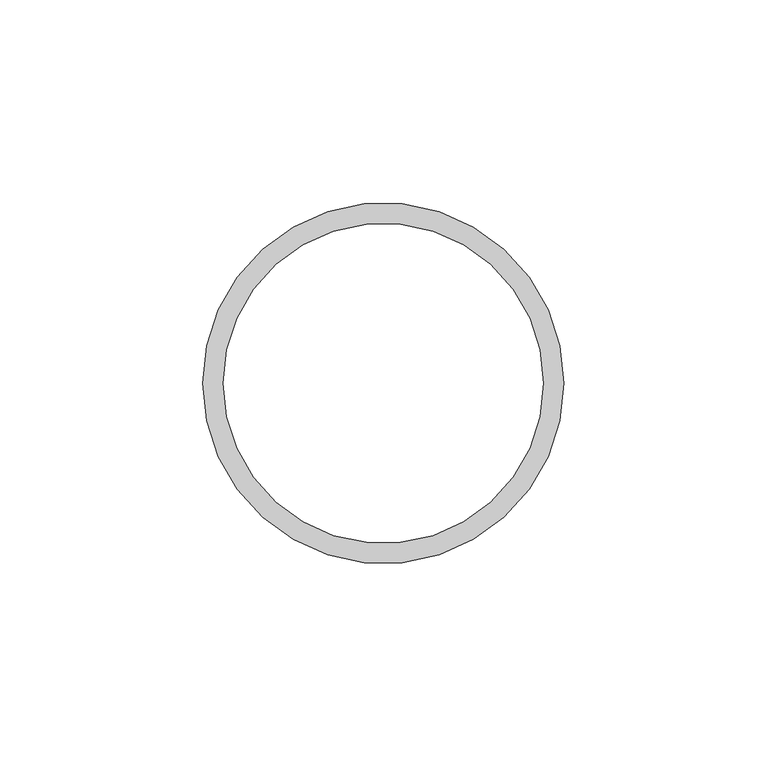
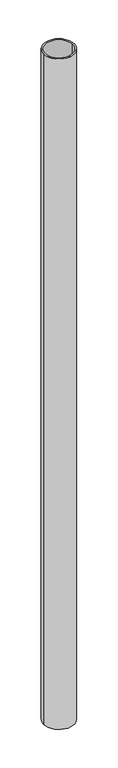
"""IFC4 building model written with IfcOpenShell, lengths in millimetres: column geometry, NLRS_28_SC_TLB_kolom buis_generiek_ISR : ø88.9x5 ."""

import ifcopenshell
import ifcopenshell.guid

model = None  # the IFC model being written
_history = None  # IfcOwnerHistory: only IFC2X3 demands one
_inside = {}  # id of a spatial element -> (the spatial element, [elements in it])
_under = {}  # id of a project, library or spatial element -> (it, [spatial elements below it])
_declared = {}  # id of a project -> (the project, [libraries it declares])
_typed = {}  # id of a type object -> (the type object, [elements of that type])
_made_of = {}  # id of a material, layer set ... -> (it, [elements and type objects made of it])


def new_model(schema):
    """Start an empty IFC model of exactly this schema.

    Asked for "IFC4X3", IfcOpenShell would pick the latest addendum, in which some entities
    have other attributes; the version numbers below select the first issue.
    IFC2X3 requires an IfcOwnerHistory on every rooted entity: one is made here for all.
    """
    global model, _history
    if schema == "IFC4X3":
        model = ifcopenshell.file(schema_version=(4, 3, 0, 0))
    else:
        model = ifcopenshell.file(schema=schema)
    _inside.clear()
    _under.clear()
    _declared.clear()
    _typed.clear()
    _made_of.clear()
    _history = None
    if model.schema == "IFC2X3":
        org = make("IfcOrganization", Name="unknown")
        user = make(
            "IfcPersonAndOrganization",
            ThePerson=make("IfcPerson", FamilyName="unknown"),
            TheOrganization=org,
        )
        app = make(
            "IfcApplication",
            ApplicationDeveloper=org,
            Version="unknown",
            ApplicationFullName="unknown",
            ApplicationIdentifier="unknown",
        )
        _history = make(
            "IfcOwnerHistory",
            OwningUser=user,
            OwningApplication=app,
            ChangeAction="ADDED",
            CreationDate=0,
        )
    return model


def make(cls, **values):
    """One entity of the class cls with the attributes given. An attribute that is None is left unset."""
    return model.create_entity(
        cls, **{name: value for name, value in values.items() if value is not None}
    )


def rooted(cls, **values):
    """An entity with a GlobalId (a new one), such as an element, a storey or a relation."""
    return make(cls, GlobalId=ifcopenshell.guid.new(), OwnerHistory=_history, **values)


def si_unit(unit_type, name, prefix=None):
    """IfcSIUnit, for example si_unit("LENGTHUNIT", "METRE", prefix="MILLI")."""
    return make("IfcSIUnit", UnitType=unit_type, Prefix=prefix, Name=name)


def assignment(units):
    """IfcUnitAssignment: the units of a project."""
    return None if units is None else make("IfcUnitAssignment", Units=units)


def point(xyz):
    """IfcCartesianPoint."""
    return None if xyz is None else make("IfcCartesianPoint", Coordinates=xyz)


def direction(xyz):
    """IfcDirection."""
    return None if xyz is None else make("IfcDirection", DirectionRatios=xyz)


def frame(location, z_axis=None, x_axis=None):
    """IfcAxis2Placement3D, a coordinate frame: its origin and axes. An axis left out is left unset."""
    return make(
        "IfcAxis2Placement3D",
        Location=point(location),
        Axis=direction(z_axis),
        RefDirection=direction(x_axis),
    )


def frame_2d(location, x_axis=None):
    """IfcAxis2Placement2D, a coordinate frame in the plane: its origin and x axis."""
    return make(
        "IfcAxis2Placement2D", Location=point(location), RefDirection=direction(x_axis)
    )


def origin():
    """The frame at (0, 0, 0) with its axes left unset."""
    return frame((0.0, 0.0, 0.0))


def origin_2d():
    """The frame at (0, 0) in the plane with its x axis left unset."""
    return frame_2d((0.0, 0.0))


def place(relative_to, where):
    """IfcLocalPlacement: puts the frame where relative to a parent placement (None: the world)."""
    return make(
        "IfcLocalPlacement", PlacementRelTo=relative_to, RelativePlacement=where
    )


def context(
    kind, dimensions, precision=None, world=None, true_north=None, identifier=None
):
    """IfcGeometricRepresentationContext, for example the 3D "Model" context."""
    return make(
        "IfcGeometricRepresentationContext",
        ContextIdentifier=identifier,
        ContextType=kind,
        CoordinateSpaceDimension=dimensions,
        Precision=precision,
        WorldCoordinateSystem=world,
        TrueNorth=true_north,
    )


def project(units=None, contexts=None):
    """IfcProject with its units and contexts."""
    return rooted(
        "IfcProject",
        Name="project",
        RepresentationContexts=contexts,
        UnitsInContext=assignment(units),
    )


def spatial(cls, under=None, at=None, **own):
    """A site, building, storey or space (cls), placed at a placement, below another one or the project."""
    s = rooted(cls, ObjectPlacement=at, **own)
    if under is not None:
        _under.setdefault(under.id(), (under, []))[1].append(s)
    return s


def circle_curve(where, radius):
    """IfcCircle in the frame where."""
    return make("IfcCircle", Position=where, Radius=radius)


def trimmed(basis, trim1, trim2, sense, master):
    """IfcTrimmedCurve: the piece of a basis curve between two trims."""
    return make(
        "IfcTrimmedCurve",
        BasisCurve=basis,
        Trim1=trim1,
        Trim2=trim2,
        SenseAgreement=sense,
        MasterRepresentation=master,
    )


def segment(curve, same_sense, transition):
    """IfcCompositeCurveSegment."""
    return make(
        "IfcCompositeCurveSegment",
        Transition=transition,
        SameSense=same_sense,
        ParentCurve=curve,
    )


def composite_curve(segments, self_intersect=None):
    """IfcCompositeCurve: segments joined end to end."""
    return make("IfcCompositeCurve", Segments=segments, SelfIntersect=self_intersect)


def outline(outer, holes=None, kind="AREA"):
    """IfcArbitraryClosedProfileDef: a profile drawn as a closed curve; with holes, ...WithVoids."""
    if holes is None:
        return make("IfcArbitraryClosedProfileDef", ProfileType=kind, OuterCurve=outer)
    return make(
        "IfcArbitraryProfileDefWithVoids",
        ProfileType=kind,
        OuterCurve=outer,
        InnerCurves=holes,
    )


def extrude(swept, where, along, depth):
    """IfcExtrudedAreaSolid: the profile swept, set in the frame where, extruded along a direction by depth."""
    return make(
        "IfcExtrudedAreaSolid",
        SweptArea=swept,
        Position=where,
        ExtrudedDirection=direction(along),
        Depth=depth,
    )


def shape(context_of_items, identifier, shape_type, items):
    """IfcShapeRepresentation: the items that make up one representation, for example the "Body"."""
    return make(
        "IfcShapeRepresentation",
        ContextOfItems=context_of_items,
        RepresentationIdentifier=identifier,
        RepresentationType=shape_type,
        Items=items,
    )


def source(mapping_origin, context_of_items, identifier, shape_type, items):
    """IfcRepresentationMap: a shape defined once, which mapped items show again and again."""
    return make(
        "IfcRepresentationMap",
        MappingOrigin=mapping_origin,
        MappedRepresentation=shape(context_of_items, identifier, shape_type, items),
    )


def transform(
    local_origin,
    x_axis=None,
    y_axis=None,
    z_axis=None,
    scale=None,
    scale2=None,
    scale3=None,
    uniform=True,
):
    """IfcCartesianTransformationOperator3D, or its non-uniform kind. x_axis, y_axis, z_axis: its Axis1, 2, 3."""
    if uniform:
        return make(
            "IfcCartesianTransformationOperator3D",
            Axis1=direction(x_axis),
            Axis2=direction(y_axis),
            LocalOrigin=point(local_origin),
            Scale=scale,
            Axis3=direction(z_axis),
        )
    return make(
        "IfcCartesianTransformationOperator3DnonUniform",
        Axis1=direction(x_axis),
        Axis2=direction(y_axis),
        LocalOrigin=point(local_origin),
        Scale=scale,
        Axis3=direction(z_axis),
        Scale2=scale2,
        Scale3=scale3,
    )


def mapped(mapping_source, mapping_target):
    """IfcMappedItem: shows the shape of a source again, moved by a transform."""
    return make(
        "IfcMappedItem", MappingSource=mapping_source, MappingTarget=mapping_target
    )


def made_of(thing, what):
    """Note that an element or type object is made of a material, layer set ...; save() writes the relation."""
    if what is not None:
        _made_of.setdefault(what.id(), (what, []))[1].append(thing)
    return thing


def element(
    cls,
    number,
    at=None,
    inside=None,
    cuts=None,
    type_object=None,
    material=None,
    context=None,
    identifier="Body",
    shape_type=None,
    held_by="IfcProductDefinitionShape",
    body=None,
    shapes=None,
    **own,
):
    """One element of the class cls, such as IfcWall. Its Tag is "e" and its number.

    at: its placement. inside: the storey or other place that contains it. cuts: it is an
    opening in that element (IfcRelVoidsElement). A single representation is given by context,
    identifier, shape_type and body (its items); several are given by shapes. held_by: the class
    of the entity that holds the representations. save() writes the other relations.
    """
    e = rooted(cls, Tag="e%d" % number, ObjectPlacement=at, **own)
    if body is not None:
        shapes = [shape(context, identifier, shape_type, body)]
    if shapes is not None:
        e.Representation = make(held_by, Representations=shapes)
    if inside is not None:
        _inside.setdefault(inside.id(), (inside, []))[1].append(e)
    if cuts is not None:
        rooted(
            "IfcRelVoidsElement", RelatingBuildingElement=cuts, RelatedOpeningElement=e
        )
    if type_object is not None:
        _typed.setdefault(type_object.id(), (type_object, []))[1].append(e)
    return made_of(e, material)


def aggregate(whole, parts):
    """IfcRelAggregates: a whole, such as a stair, and the parts it consists of."""
    return rooted("IfcRelAggregates", RelatingObject=whole, RelatedObjects=parts)


def save(model, path):
    """Write the relations noted so far, then the file.

    IfcRelAggregates (storeys below a building ...), IfcRelContainedInSpatialStructure (elements
    in a storey), IfcRelDefinesByType, IfcRelAssociatesMaterial and IfcRelDeclares: one each for
    every whole, place, type object, material and project.
    """
    for whole, parts in _under.values():
        aggregate(whole, parts)
    for where, things in _inside.values():
        rooted(
            "IfcRelContainedInSpatialStructure",
            RelatedElements=things,
            RelatingStructure=where,
        )
    for kind, things in _typed.values():
        rooted("IfcRelDefinesByType", RelatedObjects=things, RelatingType=kind)
    for what, things in _made_of.values():
        rooted("IfcRelAssociatesMaterial", RelatedObjects=things, RelatingMaterial=what)
    for by, libraries in _declared.values():
        rooted("IfcRelDeclares", RelatingContext=by, RelatedDefinitions=libraries)
    model.write(path)


def column_d5cd42f5(model_context):
    return source(origin(), model_context, "Body", "SweptSolid", [
        extrude(outline(composite_curve([segment(trimmed(circle_curve(origin_2d(), 44.45), [point((44.45, 0.0))], [point((-44.45, 0.0))], False, "CARTESIAN"), True, "CONTINUOUS"), segment(trimmed(circle_curve(origin_2d(), 44.45), [point((-44.45, 0.0))], [point((44.45, 0.0))], False, "CARTESIAN"), True, "CONTINUOUS")], self_intersect=False), holes=[composite_curve([segment(trimmed(circle_curve(origin_2d(), 39.45), [point((39.45, 0.0))], [point((-39.45, 0.0))], True, "CARTESIAN"), True, "CONTINUOUS"), segment(trimmed(circle_curve(origin_2d(), 39.45), [point((-39.45, 0.0))], [point((39.45, 0.0))], True, "CARTESIAN"), True, "CONTINUOUS")], self_intersect=False)]), frame((0.0, 0.0, 5050.0), z_axis=(0.0, 0.0, 1.0), x_axis=(1.0, 0.0, 0.0)), (0.0, 0.0, 1.0), 2050.0),
    ])


if __name__ == "__main__":
    model = new_model("IFC4")
    model_context = context("Model", 3, world=origin())
    ifc_project = project(units=[si_unit("LENGTHUNIT", "METRE", prefix="MILLI")], contexts=[model_context])
    site = spatial("IfcSite", under=ifc_project)
    building = spatial("IfcBuilding", under=site)
    placement = place(None, origin())
    column_shape = column_d5cd42f5(model_context)
    element("IfcColumn", 1, ObjectType="NLRS_28_SC_TLB_kolom buis_generiek_ISR : ø88.9x5 ", at=placement, inside=building, context=model_context, shape_type="MappedRepresentation", body=[
        mapped(column_shape, transform((0.0, 0.0, 0.0), x_axis=(1.0, 0.0, 0.0), y_axis=(0.0, 1.0, 0.0), z_axis=(0.0, 0.0, 1.0))),
    ])
    save(model, "model.ifc")
